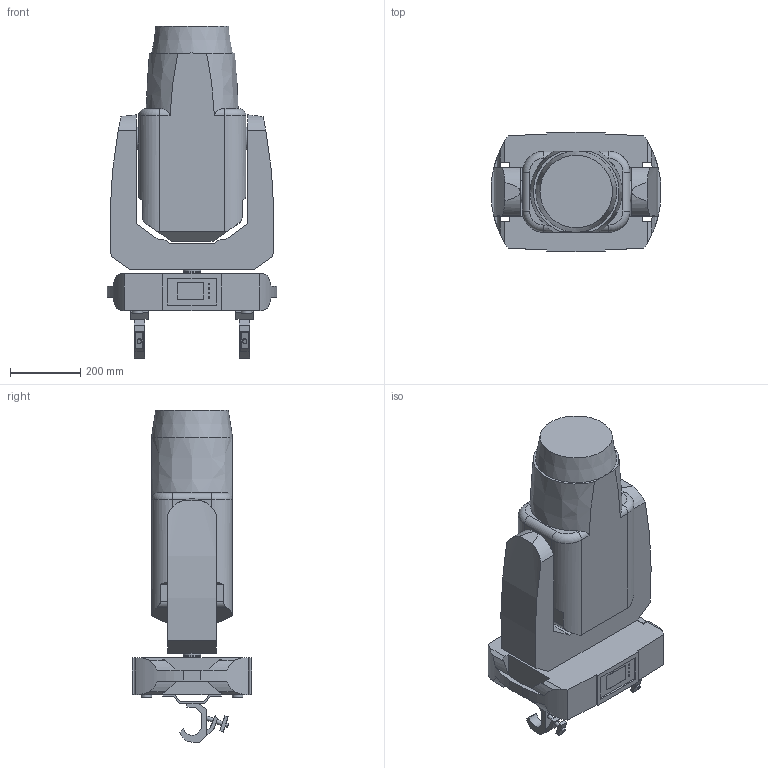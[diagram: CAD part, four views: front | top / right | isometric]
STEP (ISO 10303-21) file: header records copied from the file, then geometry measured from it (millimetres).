
FILE_DESCRIPTION( ( '' ), '1' );
FILE_NAME( 'K:/Robin 1500/01 Robin BMFL Spot/06 3D_2D symbols/3D_BMFL.stp', '2014-04-11T11:36:50', ( 'Ing.Rostislav Hába' ), ( 'ROBE lighting' ), 'PSStep 16.0.42', 'Siemens-SolidEdge', ' ' );
FILE_SCHEMA( ( 'AUTOMOTIVE_DESIGN { 1 0 10303 214 1 1 1 1 }' ) );
Length unit declared in the file: millimetre
Products named in the file (7): Omega_SlimClamp_00; Omega+SlimClamp; Clamp Doughty Slimline QT; Assem1; BMFL_base; BMFL_arm; BMFL_head
Assembly tree (7 placements, depth 3):
  Assem1
    BMFL_base
    BMFL_arm
    BMFL_head
    Omega_SlimClamp_00  x2
      Omega+SlimClamp
      Clamp Doughty Slimline QT
Bounding box: 482.55 x 339.31 x 944.82 mm (x, y, z)
Volume: 61265580.8 mm3; surface area: 1745398.6 mm2
Topology: 7 solids, 7 shells, 282 faces, 704 edges, 470 vertices
Faces by surface type: plane 196, cylinder 79, torus 4, bspline 2, cone 1
Full cylindrical faces by diameter (mm): 4.153 x4, 10 x10, 11 x4, 12 x8, 13 x2, 20.926 x6, 30 x4, 34 x2, 50 x2, 63 x1
Entity records: 9088 total; most frequent: CARTESIAN_POINT 1701, DIRECTION 1126, ORIENTED_EDGE 1046, EDGE_CURVE 523, AXIS2_PLACEMENT_3D 398, VERTEX_POINT 369, LINE 330, VECTOR 330
